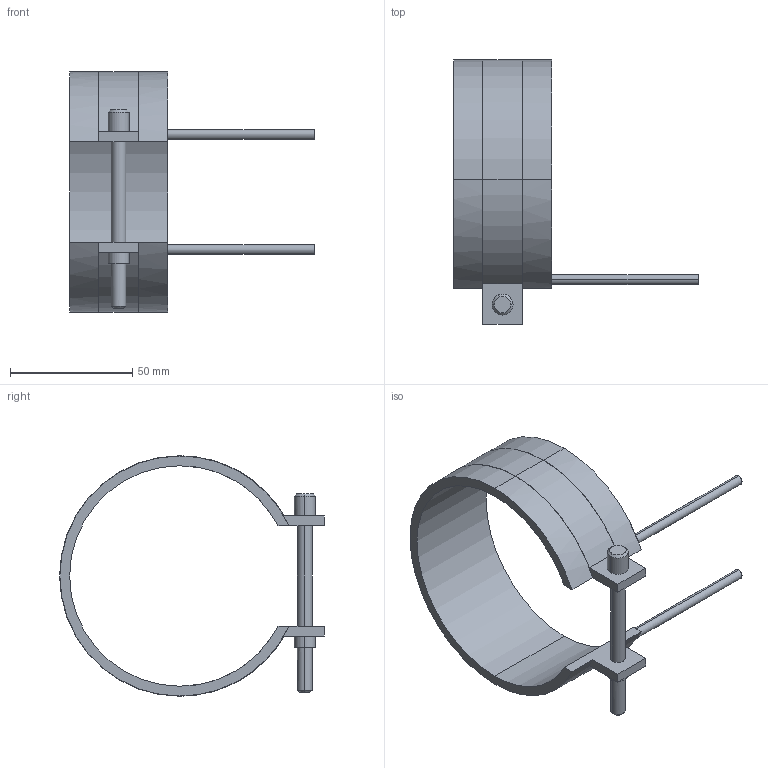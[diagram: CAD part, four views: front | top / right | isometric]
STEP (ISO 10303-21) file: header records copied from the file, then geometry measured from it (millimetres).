
FILE_DESCRIPTION(('CATIA V5 STEP Exchange'),'2;1');
FILE_NAME('C:\Users\Utente\Desktop\IO LAVORO\3D X SITO CF\X SITO\PLASTICA\RF2\14090040.stp','2021-04-06T16:10:45+00:00',('none'),('none'),'CATIA Version 5 Release 20 GA (IN-10)','CATIA V5 STEP AP203','none');
FILE_SCHEMA(('CONFIG_CONTROL_DESIGN'));
Length unit declared in the file: millimetre
Products named in the file (1): 14090040
Bounding box: 100 x 108.1 x 98.2 mm (x, y, z)
Volume: 46807 mm3; surface area: 26802.4 mm2
Topology: 1 solids, 1 shells, 45 faces, 116 edges, 76 vertices
Faces by surface type: cylinder 24, plane 17, cone 4
Entity records: 1412 total; most frequent: CARTESIAN_POINT 288, ORIENTED_EDGE 232, DIRECTION 195, EDGE_CURVE 116, AXIS2_PLACEMENT_3D 103, VERTEX_POINT 76, CIRCLE 61, VECTOR 52
